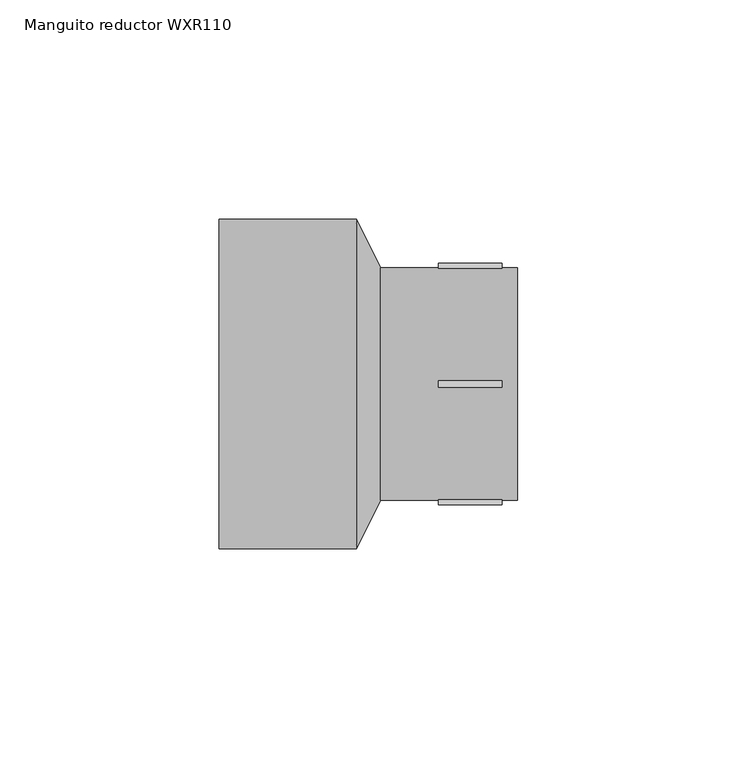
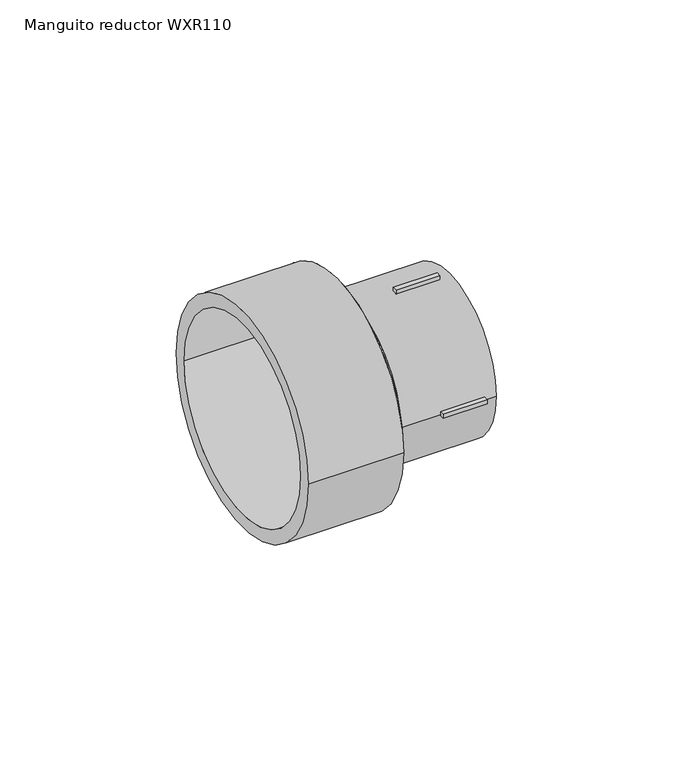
"""IFC4 building model written with IfcOpenShell, lengths in millimetres: pipe fitting geometry, EGB_VASEN_ PPR_Manguito reductor WXR110 : Manguito reductor WXR110."""

from ifc_helpers import new_model, si_unit, point, frame, origin, origin_2d, place, context, project, spatial, polyline, circle_curve, trimmed, segment, composite_curve, outline, extrude, source, transform, mapped, element, save
from ifc_brep_helpers import plane_surface, revolved_surface, advanced_brep


def manguito_reductor_wxr110_c1663e2a(model_context):
    return source(origin(), model_context, "Body", "SolidModel", [
        extrude(outline(polyline([(16.0, -0.75), (16.0, 0.75), (30.4, 0.75), (30.4, -0.75), (16.0, -0.75)])), frame((0.0, 0.0, 25.5), z_axis=(0.0, 0.0, 1.0), x_axis=(1.0, 0.0, 0.0)), (0.0, 0.0, 1.0), 2.0),
        extrude(outline(polyline([(16.0, -0.75), (16.0, 0.75), (30.4, 0.75), (30.4, -0.75), (16.0, -0.75)])), frame((0.0, 0.0, -27.5), z_axis=(0.0, 0.0, 1.0), x_axis=(1.0, 0.0, 0.0)), (0.0, 0.0, 1.0), 2.0),
        extrude(outline(polyline([(16.0, 25.5), (16.0, 27.5), (30.4, 27.5), (30.4, 25.5), (16.0, 25.5)])), frame((0.0, 0.0, -0.75), z_axis=(0.0, 0.0, 1.0), x_axis=(1.0, 0.0, 0.0)), (0.0, 0.0, 1.0), 1.5),
        extrude(outline(polyline([(16.0, -27.5), (16.0, -25.5), (30.4, -25.5), (30.4, -27.5), (16.0, -27.5)])), frame((0.0, 0.0, -0.75), z_axis=(0.0, 0.0, 1.0), x_axis=(1.0, 0.0, 0.0)), (0.0, 0.0, 1.0), 1.5),
        extrude(outline(composite_curve([segment(trimmed(circle_curve(origin_2d(), 26.5), [point((-26.5, 0.0))], [point((26.5, 0.0))], False, "CARTESIAN"), True, "CONTINUOUS"), segment(trimmed(circle_curve(origin_2d(), 26.5), [point((26.5, 0.0))], [point((-26.5, 0.0))], False, "CARTESIAN"), True, "CONTINUOUS")], self_intersect=False), holes=[composite_curve([segment(trimmed(circle_curve(origin_2d(), 20.0), [point((-20.0, 0.0))], [point((20.0, 0.0))], True, "CARTESIAN"), True, "CONTINUOUS"), segment(trimmed(circle_curve(origin_2d(), 20.0), [point((20.0, 0.0))], [point((-20.0, 0.0))], True, "CARTESIAN"), True, "CONTINUOUS")], self_intersect=False)]), frame((2.72, 0.0, 0.0), z_axis=(1.0, 0.0, 0.0), x_axis=(0.0, 1.0, 0.0)), (0.0, 0.0, 1.0), 31.28),
        extrude(outline(composite_curve([segment(trimmed(circle_curve(origin_2d(), 37.5), [point((-37.5, 0.0))], [point((37.5, 0.0))], False, "CARTESIAN"), True, "CONTINUOUS"), segment(trimmed(circle_curve(origin_2d(), 37.5), [point((37.5, 0.0))], [point((-37.5, 0.0))], False, "CARTESIAN"), True, "CONTINUOUS")], self_intersect=False), holes=[composite_curve([segment(trimmed(circle_curve(origin_2d(), 33.0), [point((-33.0, 0.0))], [point((33.0, 0.0))], True, "CARTESIAN"), True, "CONTINUOUS"), segment(trimmed(circle_curve(origin_2d(), 33.0), [point((33.0, 0.0))], [point((-33.0, 0.0))], True, "CARTESIAN"), True, "CONTINUOUS")], self_intersect=False)]), frame((-34.0, 0.0, 0.0), z_axis=(1.0, 0.0, 0.0), x_axis=(0.0, 1.0, 0.0)), (0.0, 0.0, 1.0), 31.28),
        advanced_brep(
        [(2.72, -26.5, 0.0), (2.72, 26.5, 0.0), (-2.72, -37.5, 0.0), (-2.72, 37.5, 0.0)],
        [
            (0, 1, circle_curve(frame((2.72, 0.0, 0.0), z_axis=(1.0, 0.0, 0.0), x_axis=(0.0, -1.0, 0.0)), 26.5)),
            (1, 0, circle_curve(frame((2.72, 0.0, 0.0), z_axis=(1.0, 0.0, 0.0), x_axis=(0.0, 1.0, 0.0)), 26.5)),
            (2, 3, circle_curve(frame((-2.72, 0.0, 0.0), z_axis=(-1.0, 0.0, 0.0), x_axis=(0.0, 1.0, 0.0)), 37.5)),
            (3, 2, circle_curve(frame((-2.72, 0.0, 0.0), z_axis=(-1.0, 0.0, 0.0), x_axis=(0.0, -1.0, 0.0)), 37.5)),
            (3, 1),
            (0, 2),
        ],
        [
            plane_surface(frame((2.72, 0.0, 0.0), z_axis=(1.0, 0.0, 0.0), x_axis=(0.0, 0.0, -1.0))),
            plane_surface(frame((-2.72, 0.0, 0.0), z_axis=(-1.0, 0.0, 0.0), x_axis=(0.0, 0.0, -1.0))),
            revolved_surface(polyline([(2.7200000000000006, -26.499999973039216, 0.0), (-2.719999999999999, -37.5, 0.0)]), (15.8254545, 0.0, 0.0), (-1.0, 0.0, 0.0)),
            revolved_surface(polyline([(2.7200000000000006, 26.499999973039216, 0.0), (-2.719999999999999, 37.5, 0.0)]), (15.8254545, 0.0, 0.0), (-1.0, 0.0, 0.0)),
        ],
        [
            (0, [[1, 2]]),
            (1, [[3, 4]]),
            (2, [[-4, 5, -1, 6]]),
            (3, [[-3, -6, -2, -5]]),
        ],
    ),
    ])


if __name__ == "__main__":
    model = new_model("IFC4")
    model_context = context("Model", 3, world=origin())
    ifc_project = project(units=[si_unit("LENGTHUNIT", "METRE", prefix="MILLI")], contexts=[model_context])
    site = spatial("IfcSite", under=ifc_project)
    building = spatial("IfcBuilding", under=site)
    placement = place(None, origin())
    manguito_reductor_wxr110_shape = manguito_reductor_wxr110_c1663e2a(model_context)
    element("IfcPipeFitting", 1, ObjectType="EGB_VASEN_ PPR_Manguito reductor WXR110 : Manguito reductor WXR110", at=placement, inside=building, context=model_context, shape_type="MappedRepresentation", body=[
        mapped(manguito_reductor_wxr110_shape, transform((0.0, 0.0, 0.0), x_axis=(1.0, 0.0, 0.0), y_axis=(0.0, 1.0, 0.0), z_axis=(0.0, 0.0, 1.0))),
    ])
    save(model, "model.ifc")
